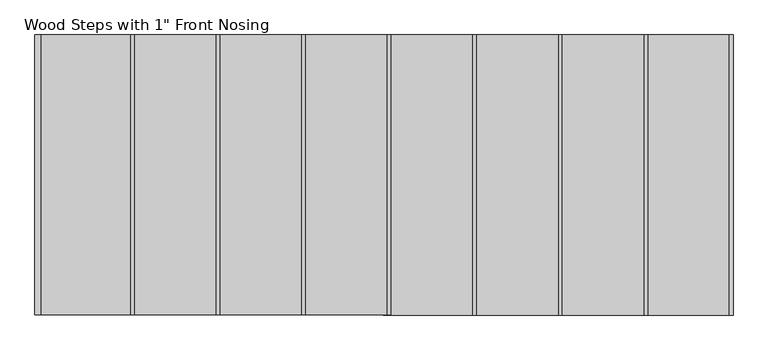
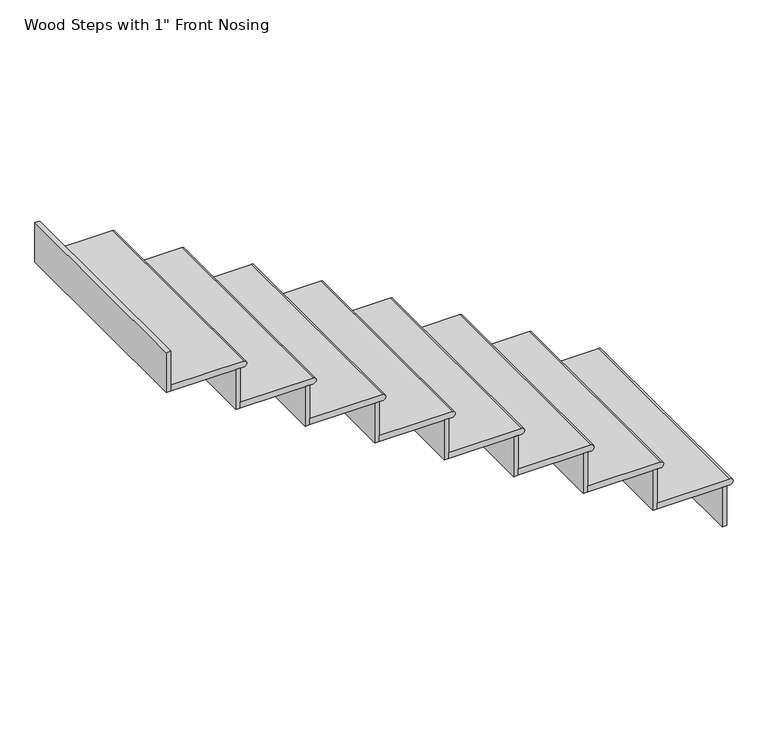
"""IFC4 building model written with IfcOpenShell, lengths in millimetres: stair flight geometry."""

from ifc_helpers import new_model, si_unit, point, frame, frame_2d, origin, place, context, project, spatial, polyline, circle_curve, trimmed, segment, composite_curve, outline, extrude, source, transform, mapped, element, save


def stair_flight_40993924(model_context):
    return source(origin(), model_context, "Body", "SweptSolid", [
        extrude(outline(composite_curve([segment(polyline([(1693.3333333, 55938.6203872), (1693.3333333, 55646.5203872), (1667.9333333, 55646.5203872), (1667.9333333, 55938.6203872)]), True, "CONTINUOUS"), segment(trimmed(circle_curve(frame_2d((1680.6333333, 55938.6203872)), 12.7), [point((1667.9333333, 55938.6203872))], [point((1693.3333333, 55938.6203872))], False, "CARTESIAN"), True, "CONTINUOUS")], self_intersect=False)), frame((0.0, -115.2637558, 0.0), z_axis=(0.0, 1.0, 0.0), x_axis=(0.0, 0.0, 1.0)), (0.0, 0.0, 1.0), 914.4),
        extrude(outline(polyline([(55906.8703872, 799.1362442), (55925.9203872, 799.1362442), (55925.9203872, -115.2637558), (55906.8703872, -115.2637558), (55906.8703872, 799.1362442)])), frame((0.0, 0.0, 1498.6), z_axis=(0.0, 0.0, 1.0), x_axis=(1.0, 0.0, 0.0)), (0.0, 0.0, 1.0), 169.3333333),
        extrude(outline(polyline([(55627.4703872, 799.1362442), (55646.5203872, 799.1362442), (55646.5203872, -115.2637558), (55627.4703872, -115.2637558), (55627.4703872, 799.1362442)])), frame((0.0, 0.0, 1667.9333333), z_axis=(0.0, 0.0, 1.0), x_axis=(1.0, 0.0, 0.0)), (0.0, 0.0, 1.0), 169.3333333),
        extrude(outline(composite_curve([segment(polyline([(1862.6666667, 55659.2203872), (1862.6666667, 55367.1203872), (1837.2666667, 55367.1203872), (1837.2666667, 55659.2203872)]), True, "CONTINUOUS"), segment(trimmed(circle_curve(frame_2d((1849.9666667, 55659.2203872)), 12.7), [point((1837.2666667, 55659.2203872))], [point((1862.6666667, 55659.2203872))], False, "CARTESIAN"), True, "CONTINUOUS")], self_intersect=False)), frame((0.0, -115.2637558, 0.0), z_axis=(0.0, 1.0, 0.0), x_axis=(0.0, 0.0, 1.0)), (0.0, 0.0, 1.0), 914.4),
        extrude(outline(polyline([(55348.0703872, 799.1362442), (55367.1203872, 799.1362442), (55367.1203872, -115.2637558), (55348.0703872, -115.2637558), (55348.0703872, 799.1362442)])), frame((0.0, 0.0, 1837.2666667), z_axis=(0.0, 0.0, 1.0), x_axis=(1.0, 0.0, 0.0)), (0.0, 0.0, 1.0), 169.3333333),
        extrude(outline(composite_curve([segment(polyline([(2032.0, 55379.8203872), (2032.0, 55087.7203872), (2006.6, 55087.7203872), (2006.6, 55379.8203872)]), True, "CONTINUOUS"), segment(trimmed(circle_curve(frame_2d((2019.3, 55379.8203872)), 12.7), [point((2006.6, 55379.8203872))], [point((2032.0, 55379.8203872))], False, "CARTESIAN"), True, "CONTINUOUS")], self_intersect=False)), frame((0.0, -115.2637558, 0.0), z_axis=(0.0, 1.0, 0.0), x_axis=(0.0, 0.0, 1.0)), (0.0, 0.0, 1.0), 914.4),
        extrude(outline(polyline([(55068.6703872, 799.1362442), (55087.7203872, 799.1362442), (55087.7203872, -115.2637558), (55068.6703872, -115.2637558), (55068.6703872, 799.1362442)])), frame((0.0, 0.0, 2006.6), z_axis=(0.0, 0.0, 1.0), x_axis=(1.0, 0.0, 0.0)), (0.0, 0.0, 1.0), 169.3333333),
        extrude(outline(composite_curve([segment(polyline([(2201.3333333, 55100.4203872), (2201.3333333, 54808.3203872), (2175.9333333, 54808.3203872), (2175.9333333, 55100.4203872)]), True, "CONTINUOUS"), segment(trimmed(circle_curve(frame_2d((2188.6333333, 55100.4203872)), 12.7), [point((2175.9333333, 55100.4203872))], [point((2201.3333333, 55100.4203872))], False, "CARTESIAN"), True, "CONTINUOUS")], self_intersect=False)), frame((0.0, -115.2637558, 0.0), z_axis=(0.0, 1.0, 0.0), x_axis=(0.0, 0.0, 1.0)), (0.0, 0.0, 1.0), 914.4),
        extrude(outline(polyline([(54789.2703872, 799.1362442), (54808.3203872, 799.1362442), (54808.3203872, -115.2637558), (54789.2703872, -115.2637558), (54789.2703872, 799.1362442)])), frame((0.0, 0.0, 2175.9333333), z_axis=(0.0, 0.0, 1.0), x_axis=(1.0, 0.0, 0.0)), (0.0, 0.0, 1.0), 169.3333333),
        extrude(outline(composite_curve([segment(polyline([(2370.6666667, 54821.0203872), (2370.6666667, 54528.9203872), (2345.2666667, 54528.9203872), (2345.2666667, 54821.0203872)]), True, "CONTINUOUS"), segment(trimmed(circle_curve(frame_2d((2357.9666667, 54821.0203872)), 12.7), [point((2345.2666667, 54821.0203872))], [point((2370.6666667, 54821.0203872))], False, "CARTESIAN"), True, "CONTINUOUS")], self_intersect=False)), frame((0.0, -115.2637558, 0.0), z_axis=(0.0, 1.0, 0.0), x_axis=(0.0, 0.0, 1.0)), (0.0, 0.0, 1.0), 914.4),
        extrude(outline(polyline([(54509.8703872, 799.1362442), (54528.9203872, 799.1362442), (54528.9203872, -115.2637558), (54509.8703872, -115.2637558), (54509.8703872, 799.1362442)])), frame((0.0, 0.0, 2345.2666667), z_axis=(0.0, 0.0, 1.0), x_axis=(1.0, 0.0, 0.0)), (0.0, 0.0, 1.0), 169.3333333),
        extrude(outline(composite_curve([segment(polyline([(2540.0, 54541.6203872), (2540.0, 54249.5203872), (2514.6, 54249.5203872), (2514.6, 54541.6203872)]), True, "CONTINUOUS"), segment(trimmed(circle_curve(frame_2d((2527.3, 54541.6203872)), 12.7), [point((2514.6, 54541.6203872))], [point((2540.0, 54541.6203872))], False, "CARTESIAN"), True, "CONTINUOUS")], self_intersect=False)), frame((0.0, -115.2637558, 0.0), z_axis=(0.0, 1.0, 0.0), x_axis=(0.0, 0.0, 1.0)), (0.0, 0.0, 1.0), 914.4),
        extrude(outline(polyline([(54230.4703872, 799.1362442), (54249.5203872, 799.1362442), (54249.5203872, -115.2637558), (54230.4703872, -115.2637558), (54230.4703872, 799.1362442)])), frame((0.0, 0.0, 2514.6), z_axis=(0.0, 0.0, 1.0), x_axis=(1.0, 0.0, 0.0)), (0.0, 0.0, 1.0), 169.3333333),
        extrude(outline(composite_curve([segment(polyline([(2709.3333333, 54262.2203872), (2709.3333333, 53970.1203872), (2683.9333333, 53970.1203872), (2683.9333333, 54262.2203872)]), True, "CONTINUOUS"), segment(trimmed(circle_curve(frame_2d((2696.6333333, 54262.2203872)), 12.7), [point((2683.9333333, 54262.2203872))], [point((2709.3333333, 54262.2203872))], False, "CARTESIAN"), True, "CONTINUOUS")], self_intersect=False)), frame((0.0, -115.2637558, 0.0), z_axis=(0.0, 1.0, 0.0), x_axis=(0.0, 0.0, 1.0)), (0.0, 0.0, 1.0), 914.4),
        extrude(outline(polyline([(53951.0703872, 799.1362442), (53970.1203872, 799.1362442), (53970.1203872, -115.2637558), (53951.0703872, -115.2637558), (53951.0703872, 799.1362442)])), frame((0.0, 0.0, 2683.9333333), z_axis=(0.0, 0.0, 1.0), x_axis=(1.0, 0.0, 0.0)), (0.0, 0.0, 1.0), 169.3333333),
        extrude(outline(polyline([(53671.6703872, 799.1362442), (53690.7203872, 799.1362442), (53690.7203872, -115.2637558), (53671.6703872, -115.2637558), (53671.6703872, 799.1362442)])), frame((0.0, 0.0, 2853.2666667), z_axis=(0.0, 0.0, 1.0), x_axis=(1.0, 0.0, 0.0)), (0.0, 0.0, 1.0), 169.3333333),
        extrude(outline(composite_curve([segment(polyline([(2878.6666667, 53982.8203872), (2878.6666667, 53690.7203872), (2853.2666667, 53690.7203872), (2853.2666667, 53982.8203872)]), True, "CONTINUOUS"), segment(trimmed(circle_curve(frame_2d((2865.9666667, 53982.8203872)), 12.7), [point((2853.2666667, 53982.8203872))], [point((2878.6666667, 53982.8203872))], False, "CARTESIAN"), True, "CONTINUOUS")], self_intersect=False)), frame((0.0, -115.2637558, 0.0), z_axis=(0.0, 1.0, 0.0), x_axis=(0.0, 0.0, 1.0)), (0.0, 0.0, 1.0), 914.4),
    ])


if __name__ == "__main__":
    model = new_model("IFC4")
    model_context = context("Model", 3, world=origin())
    ifc_project = project(units=[si_unit("LENGTHUNIT", "METRE", prefix="MILLI")], contexts=[model_context])
    site = spatial("IfcSite", under=ifc_project)
    building = spatial("IfcBuilding", under=site)
    placement = place(None, origin())
    stair_flight_shape = stair_flight_40993924(model_context)
    element("IfcStairFlight", 1, ObjectType="Wood Steps with 1\" Front Nosing", at=placement, inside=building, context=model_context, shape_type="MappedRepresentation", body=[
        mapped(stair_flight_shape, transform((0.0, 0.0, 0.0), x_axis=(1.0, 0.0, 0.0), y_axis=(0.0, 1.0, 0.0), z_axis=(0.0, 0.0, 1.0))),
    ])
    save(model, "model.ifc")
